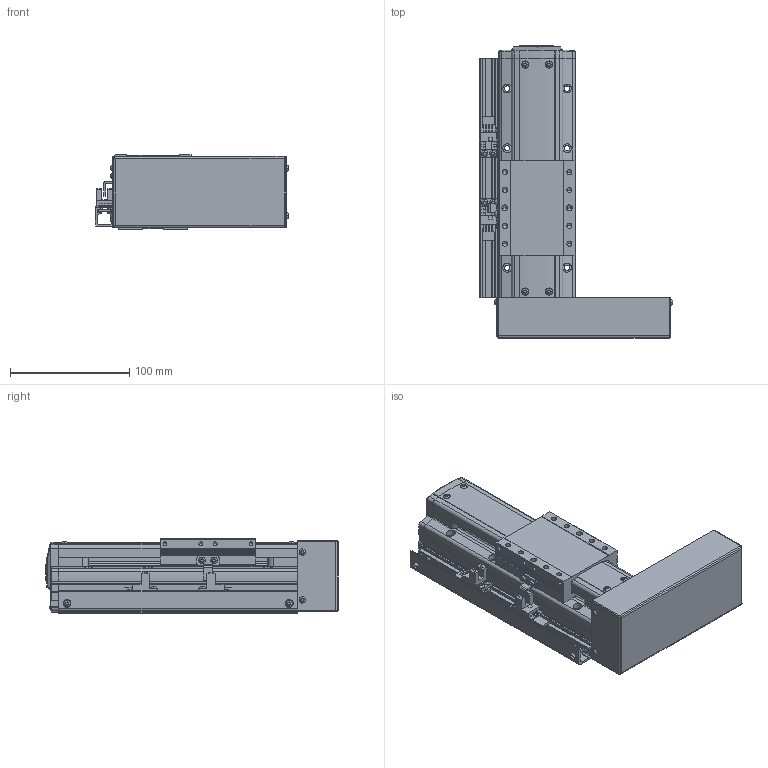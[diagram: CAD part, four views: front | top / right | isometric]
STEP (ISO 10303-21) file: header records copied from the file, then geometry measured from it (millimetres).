
FILE_DESCRIPTION(('STEP AP214'),'1');
FILE_NAME('Z:/Web/3D/PSA65/STP/PSA65-050 (3D)/PSA65ㅁㅁ-050PR+2SL.stp','2014-06-25T02:45:20',(' '),(' '),'Spatial InterOp 3D',' ',' ');
FILE_SCHEMA(('automotive_design'));
Length unit declared in the file: millimetre
Products named in the file (63): SLIDE; RRCV-PA060; 1; 2; 3; 4; 5; 6; 7; 8; 9; 10; 11; 12; 13; 14; 15; 16; 17; 18; 19; 20; 21; 22; 23; 24; 25; 26; 27; 28; 29; 30; 31; 스크루 : Round - M3.0 x 8.0; RN8 x 0.75; SHAFT-SAN65; BASE; 스크루 : Round - M3.0 x 6.0; BTCV-SAN65; BHCS M3 X 6L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
Bounding box: 162.06 x 244.8 x 62 mm (x, y, z)
Volume: 975480.2 mm3; surface area: 177166.7 mm2
Topology: 63 solids, 63 shells, 2041 faces, 5381 edges, 3467 vertices
Faces by surface type: plane 1292, cylinder 503, cone 165, sphere 46, bspline 19, torus 16
Entity records: 81022 total; most frequent: CARTESIAN_POINT 12591, DIRECTION 10778, ORIENTED_EDGE 10570, EDGE_CURVE 5285, LINE 3790, VECTOR 3790, AXIS2_PLACEMENT_3D 3494, VERTEX_POINT 3467
